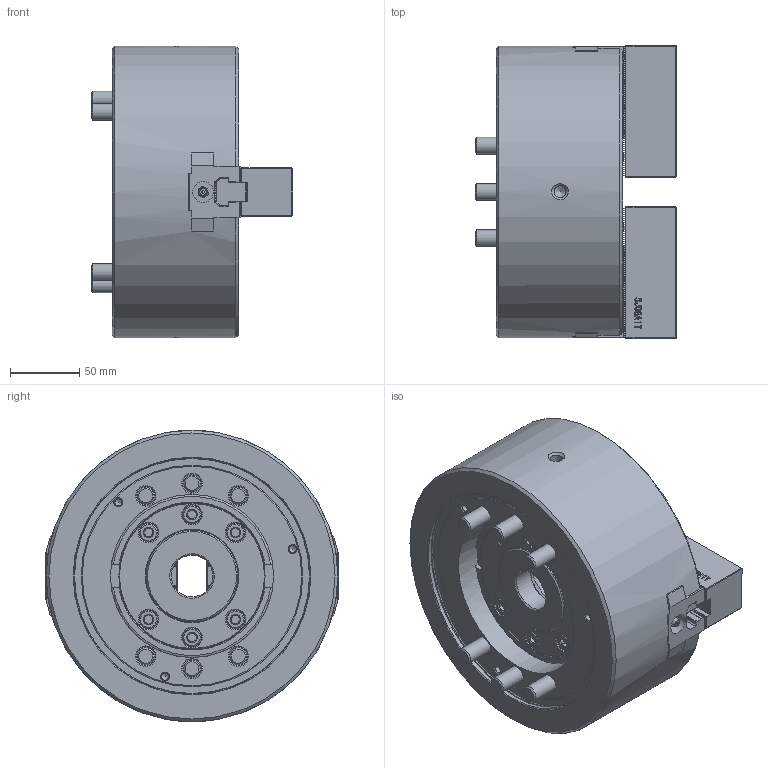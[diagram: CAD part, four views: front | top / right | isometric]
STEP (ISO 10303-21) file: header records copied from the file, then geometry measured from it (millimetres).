
FILE_DESCRIPTION (( 'STEP AP214' ), '1' );
FILE_NAME ('DT1_BT208_OUTSIDE_VIEW_UC.STEP', '2024-05-09T00:44:47', ( '' ), ( '' ), 'SwSTEP 2.0', 'SolidWorks 2022', '' );
FILE_SCHEMA (( 'AUTOMOTIVE_DESIGN' ));
Length unit declared in the file: millimetre
Products named in the file (9): DT1_BT208_COVER^DT1-BT208_ﾃﾞﾌｫﾙﾄ; DT1_BT208_SOFTJAW^DT1-BT208_ﾃﾞﾌｫﾙﾄ; DT1_BT208_OUTSIDE_VIEW_UC; DT1_BT208_M5x10^DT1-BT208_ﾃﾞﾌｫﾙﾄ; DT1_BT208_TNUT^DT1-BT208_ﾃﾞﾌｫﾙﾄ; DT1_BT208_BASE^DT1-BT208_ﾃﾞﾌｫﾙﾄ; DT1_BT208_M12x30^DT1-BT208_ﾃﾞﾌｫﾙﾄ; DT1_BT208_DRAWNUT^DT1-BT208_ﾃﾞﾌｫﾙﾄ; DT1_BT208_M12x90^DT1-BT208_ﾃﾞﾌｫﾙﾄ
Assembly tree (21 placements, depth 2):
  DT1_BT208_OUTSIDE_VIEW_UC
    DT1_BT208_SOFTJAW^DT1-BT208_ﾃﾞﾌｫﾙﾄ  x2
    DT1_BT208_TNUT^DT1-BT208_ﾃﾞﾌｫﾙﾄ  x2
    DT1_BT208_DRAWNUT^DT1-BT208_ﾃﾞﾌｫﾙﾄ
    DT1_BT208_COVER^DT1-BT208_ﾃﾞﾌｫﾙﾄ
    DT1_BT208_BASE^DT1-BT208_ﾃﾞﾌｫﾙﾄ
    DT1_BT208_M5x10^DT1-BT208_ﾃﾞﾌｫﾙﾄ  x4
    DT1_BT208_M12x30^DT1-BT208_ﾃﾞﾌｫﾙﾄ  x4
    DT1_BT208_M12x90^DT1-BT208_ﾃﾞﾌｫﾙﾄ  x6
Bounding box: 145 x 211.4 x 210 mm (x, y, z)
Volume: 2923277 mm3; surface area: 323507 mm2
Topology: 21 solids, 21 shells, 3264 faces, 9125 edges, 6014 vertices
Faces by surface type: plane 2157, cylinder 602, bspline 290, cone 192, torus 21, sphere 2
Full cylindrical faces by diameter (mm): 2 x2, 4.2 x4, 5 x7, 5.5 x4, 8.5 x2, 9.5 x4, 10 x4, 10.2 x4, 12 x10, 13 x4, 13.27 x6, 13.5 x6, 14 x6, 15 x2, 18.27 x10, 19 x4, 20 x6, 30 x1, 52 x1, 56 x2, 61 x1, 64.8 x2, 66 x2, 72 x2, 105.2 x1, 117.5 x1, 170 x1, 170.8 x1, 210 x1
Entity records: 82977 total; most frequent: CARTESIAN_POINT 25410, ORIENTED_EDGE 12928, DIRECTION 9984, EDGE_CURVE 6464, VECTOR 4722, LINE 4722, VERTEX_POINT 4349, EDGE_LOOP 2669
